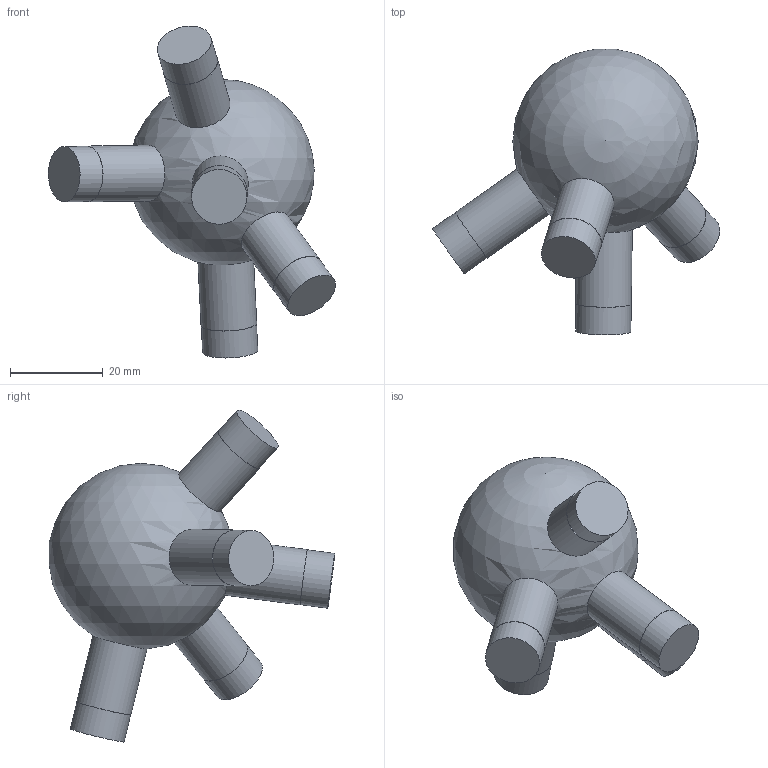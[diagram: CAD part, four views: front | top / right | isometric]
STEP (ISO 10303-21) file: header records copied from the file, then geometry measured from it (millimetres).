
FILE_DESCRIPTION(('Open CASCADE Model'),'2;1');
FILE_NAME('Open CASCADE Shape Model','2026-10-21T12:47:57',('Author'),( 'Open CASCADE'),'Open CASCADE STEP processor 7.9','Open CASCADE 7.9' ,'Unknown');
FILE_SCHEMA(('AUTOMOTIVE_DESIGN { 1 0 10303 214 1 1 1 1 }'));
Length unit declared in the file: millimetre
Products named in the file (1): Open CASCADE STEP translator 7.9 102
Bounding box: 61.87 x 61.51 x 71.5 mm (x, y, z)
Volume: 44964.4 mm3; surface area: 8928.1 mm2
Topology: 1 solids, 1 shells, 21 faces, 33 edges, 22 vertices
Faces by surface type: cylinder 10, plane 10, sphere 1
Full cylindrical faces by diameter (mm): 11.9 x5, 12 x5
Entity records: 1275 total; most frequent: CARTESIAN_POINT 517, DIRECTION 156, ORIENTED_EDGE 64, PCURVE 64, DEFINITIONAL_REPRESENTATION 64, LINE 53, VECTOR 53, AXIS2_PLACEMENT_3D 44
